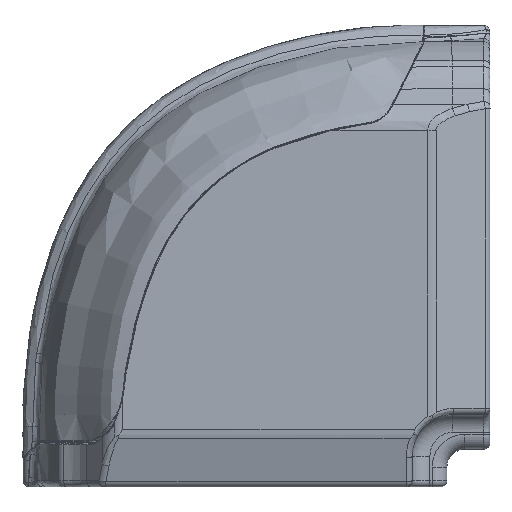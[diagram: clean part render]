
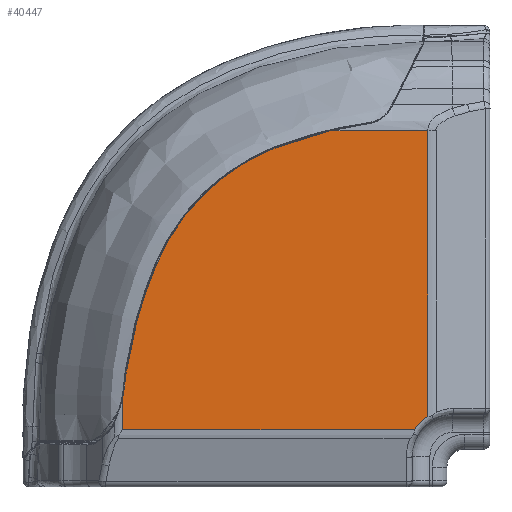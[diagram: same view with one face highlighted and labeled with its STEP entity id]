
A CAD part, top view. The second image highlights one B-rep face of the part: STEP entity #40447.
In plain terms, the highlighted planar face has unit normal (-0.007, -0.003, 1).
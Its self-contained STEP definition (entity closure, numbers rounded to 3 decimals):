
#4066 = ORIENTED_EDGE ( 'NONE', *, *, #162623, .F. ) ;
#5351 = CARTESIAN_POINT ( 'NONE',  ( 404.331, 203.759, -365.558 ) ) ;
#7813 = CARTESIAN_POINT ( 'NONE',  ( 390.149, 195.845, -365.68 ) ) ;
#8263 = EDGE_CURVE ( 'NONE', #43854, #75663, #146233, .T. ) ;
#9820 = DIRECTION ( 'NONE',  ( 0., -1., -0.003 ) ) ;
#9951 = CARTESIAN_POINT ( 'NONE',  ( 368.094, 146.159, -365.991 ) ) ;
#10569 = CARTESIAN_POINT ( 'NONE',  ( 368.015, 145.444, -365.994 ) ) ;
#11473 = CARTESIAN_POINT ( 'NONE',  ( 437.327, 136.468, -365.548 ) ) ;
#20829 = CARTESIAN_POINT ( 'NONE',  ( 402.103, 202.838, -365.576 ) ) ;
#21462 = ORIENTED_EDGE ( 'NONE', *, *, #130354, .F. ) ;
#24052 = CARTESIAN_POINT ( 'NONE',  ( 440.56, 207.815, -365.296 ) ) ;
#24851 = CARTESIAN_POINT ( 'NONE',  ( 368.094, 146.159, -365.991 ) ) ;
#25667 = CARTESIAN_POINT ( 'NONE',  ( 404.331, 203.759, -365.558 ) ) ;
#26079 = DIRECTION ( 'NONE',  ( 1., 0., 0.007 ) ) ;
#36892 = CARTESIAN_POINT ( 'NONE',  ( 368.602, 150.079, -365.975 ) ) ;
#37240 = LINE ( 'NONE', #102559, #154660 ) ;
#37526 = VERTEX_POINT ( 'NONE', #144847 ) ;
#38308 = EDGE_CURVE ( 'NONE', #108038, #121383, #99344, .T. ) ;
#40447 = ADVANCED_FACE ( 'NONE', ( #117916 ), #150733, .T. ) ;
#43132 = ORIENTED_EDGE ( 'NONE', *, *, #139537, .T. ) ;
#43854 = VERTEX_POINT ( 'NONE', #80335 ) ;
#46493 = VERTEX_POINT ( 'NONE', #172559 ) ;
#46782 = DIRECTION ( 'NONE',  ( 1., 0., 0.007 ) ) ;
#47029 = B_SPLINE_CURVE_WITH_KNOTS ( 'NONE', 3,
 ( #95392, #50824, #10569, #9951 ),
 .UNSPECIFIED., .F., .F.,
 ( 4, 4 ),
 ( 0., 1. ),
 .UNSPECIFIED. ) ;
#49262 = CARTESIAN_POINT ( 'NONE',  ( 395.305, 199.599, -365.633 ) ) ;
#49825 = DIRECTION ( 'NONE',  ( 0., 1., 0.003 ) ) ;
#50508 = CARTESIAN_POINT ( 'NONE',  ( 381.529, 186.724, -365.769 ) ) ;
#50824 = CARTESIAN_POINT ( 'NONE',  ( 367.905, 144.732, -365.997 ) ) ;
#51586 = EDGE_CURVE ( 'NONE', #37526, #100925, #66037, .T. ) ;
#52697 = VERTEX_POINT ( 'NONE', #175084 ) ;
#53810 = ORIENTED_EDGE ( 'NONE', *, *, #123099, .F. ) ;
#55355 = ORIENTED_EDGE ( 'NONE', *, *, #98409, .F. ) ;
#57398 = ORIENTED_EDGE ( 'NONE', *, *, #8263, .F. ) ;
#60715 = CARTESIAN_POINT ( 'NONE',  ( 368.239, 147.469, -365.986 ) ) ;
#62010 = LINE ( 'NONE', #24052, #170577 ) ;
#63559 = CARTESIAN_POINT ( 'NONE',  ( 378.113, 181.461, -365.809 ) ) ;
#65930 = CARTESIAN_POINT ( 'NONE',  ( 447.34, 175.978, -365.352 ) ) ;
#66037 = B_SPLINE_CURVE_WITH_KNOTS ( 'NONE', 3,
 ( #82650, #181772, #83247, #11473 ),
 .UNSPECIFIED., .F., .F.,
 ( 4, 4 ),
 ( 0., 1. ),
 .UNSPECIFIED. ) ;
#68344 = VERTEX_POINT ( 'NONE', #151687 ) ;
#68878 = CARTESIAN_POINT ( 'NONE',  ( 368.664, 150.388, -365.974 ) ) ;
#69468 = CARTESIAN_POINT ( 'NONE',  ( 368.635, 150.233, -365.975 ) ) ;
#73110 = CARTESIAN_POINT ( 'NONE',  ( 368.094, 146.159, -365.991 ) ) ;
#73681 = B_SPLINE_CURVE_WITH_KNOTS ( 'NONE', 3,
 ( #153703, #69468, #68878, #83709 ),
 .UNSPECIFIED., .F., .F.,
 ( 4, 4 ),
 ( 0., 1. ),
 .UNSPECIFIED. ) ;
#75663 = VERTEX_POINT ( 'NONE', #146202 ) ;
#80335 = CARTESIAN_POINT ( 'NONE',  ( 368.688, 150.543, -365.973 ) ) ;
#81122 = B_SPLINE_CURVE_WITH_KNOTS ( 'NONE', 3,
 ( #25667, #124764, #126554, #139579 ),
 .UNSPECIFIED., .F., .F.,
 ( 4, 4 ),
 ( 0., 1. ),
 .UNSPECIFIED. ) ;
#82650 = CARTESIAN_POINT ( 'NONE',  ( 440.56, 139.678, -365.515 ) ) ;
#83100 = LINE ( 'NONE', #90122, #134095 ) ;
#83247 = CARTESIAN_POINT ( 'NONE',  ( 438.178, 137.744, -365.538 ) ) ;
#83709 = CARTESIAN_POINT ( 'NONE',  ( 368.688, 150.543, -365.973 ) ) ;
#90122 = CARTESIAN_POINT ( 'NONE',  ( 367.761, 136.47, -366.025 ) ) ;
#94963 = CARTESIAN_POINT ( 'NONE',  ( 437.327, 136.468, -365.548 ) ) ;
#95392 = CARTESIAN_POINT ( 'NONE',  ( 367.761, 144.028, -366.001 ) ) ;
#98409 = EDGE_CURVE ( 'NONE', #68344, #108038, #47029, .T. ) ;
#99344 = B_SPLINE_CURVE_WITH_KNOTS ( 'NONE', 3,
 ( #73110, #60715, #130097, #159183 ),
 .UNSPECIFIED., .F., .F.,
 ( 4, 4 ),
 ( 0., 1. ),
 .UNSPECIFIED. ) ;
#100414 = EDGE_CURVE ( 'NONE', #182853, #46493, #37240, .T. ) ;
#100925 = VERTEX_POINT ( 'NONE', #94963 ) ;
#102273 = ORIENTED_EDGE ( 'NONE', *, *, #51586, .F. ) ;
#102559 = CARTESIAN_POINT ( 'NONE',  ( 417.428, 207.815, -365.455 ) ) ;
#105695 = CARTESIAN_POINT ( 'NONE',  ( 375.724, 175.713, -365.844 ) ) ;
#107829 = CARTESIAN_POINT ( 'NONE',  ( 375.724, 175.713, -365.844 ) ) ;
#108038 = VERTEX_POINT ( 'NONE', #24851 ) ;
#108692 = DIRECTION ( 'NONE',  ( 0., -1., -0.003 ) ) ;
#109778 = CARTESIAN_POINT ( 'NONE',  ( 367.761, 136.47, -366.025 ) ) ;
#109894 = DIRECTION ( 'NONE',  ( -0.007, -0.003, 1. ) ) ;
#110975 = ORIENTED_EDGE ( 'NONE', *, *, #38308, .F. ) ;
#116996 = VECTOR ( 'NONE', #26079, 1000. ) ;
#117916 = FACE_OUTER_BOUND ( 'NONE', #129359, .T. ) ;
#121383 = VERTEX_POINT ( 'NONE', #36892 ) ;
#123099 = EDGE_CURVE ( 'NONE', #128839, #182853, #81122, .T. ) ;
#124764 = CARTESIAN_POINT ( 'NONE',  ( 408.591, 205.431, -365.523 ) ) ;
#125648 = CARTESIAN_POINT ( 'NONE',  ( 404.331, 203.759, -365.558 ) ) ;
#125870 = CARTESIAN_POINT ( 'NONE',  ( 417.428, 207.815, -365.455 ) ) ;
#126461 = ORIENTED_EDGE ( 'NONE', *, *, #154990, .F. ) ;
#126554 = CARTESIAN_POINT ( 'NONE',  ( 412.969, 206.787, -365.489 ) ) ;
#128839 = VERTEX_POINT ( 'NONE', #125648 ) ;
#129359 = EDGE_LOOP ( 'NONE', ( #21462, #43132, #102273, #4066, #159138, #53810, #180117, #57398, #126461, #110975, #55355 ) ) ;
#130097 = CARTESIAN_POINT ( 'NONE',  ( 368.409, 148.776, -365.981 ) ) ;
#130354 = EDGE_CURVE ( 'NONE', #52697, #68344, #83100, .T. ) ;
#134095 = VECTOR ( 'NONE', #49825, 1000. ) ;
#136234 = CARTESIAN_POINT ( 'NONE',  ( 370.005, 159.187, -365.936 ) ) ;
#139537 = EDGE_CURVE ( 'NONE', #52697, #100925, #179093, .T. ) ;
#139579 = CARTESIAN_POINT ( 'NONE',  ( 417.428, 207.815, -365.455 ) ) ;
#144847 = CARTESIAN_POINT ( 'NONE',  ( 440.56, 139.678, -365.515 ) ) ;
#146202 = CARTESIAN_POINT ( 'NONE',  ( 375.724, 175.713, -365.844 ) ) ;
#146233 = B_SPLINE_CURVE_WITH_KNOTS ( 'NONE', 3,
 ( #149881, #136234, #179638, #107829 ),
 .UNSPECIFIED., .F., .F.,
 ( 4, 4 ),
 ( 0., 1. ),
 .UNSPECIFIED. ) ;
#149881 = CARTESIAN_POINT ( 'NONE',  ( 368.688, 150.543, -365.973 ) ) ;
#150733 = PLANE ( 'NONE',  #165780 ) ;
#151687 = CARTESIAN_POINT ( 'NONE',  ( 367.761, 144.028, -366.001 ) ) ;
#153703 = CARTESIAN_POINT ( 'NONE',  ( 368.602, 150.079, -365.975 ) ) ;
#154660 = VECTOR ( 'NONE', #46782, 1000. ) ;
#154990 = EDGE_CURVE ( 'NONE', #121383, #43854, #73681, .T. ) ;
#158704 = EDGE_CURVE ( 'NONE', #75663, #128839, #179290, .T. ) ;
#159138 = ORIENTED_EDGE ( 'NONE', *, *, #100414, .F. ) ;
#159183 = CARTESIAN_POINT ( 'NONE',  ( 368.602, 150.079, -365.975 ) ) ;
#162623 = EDGE_CURVE ( 'NONE', #46493, #37526, #62010, .T. ) ;
#162637 = CARTESIAN_POINT ( 'NONE',  ( 403.209, 203.318, -365.567 ) ) ;
#165780 = AXIS2_PLACEMENT_3D ( 'NONE', #65930, #109894, #108692 ) ;
#170577 = VECTOR ( 'NONE', #9820, 1000. ) ;
#172559 = CARTESIAN_POINT ( 'NONE',  ( 440.56, 207.815, -365.296 ) ) ;
#175084 = CARTESIAN_POINT ( 'NONE',  ( 367.761, 136.47, -366.025 ) ) ;
#179093 = LINE ( 'NONE', #109778, #116996 ) ;
#179290 = B_SPLINE_CURVE_WITH_KNOTS ( 'NONE', 3,
 ( #105695, #63559, #50508, #7813, #49262, #20829, #162637, #5351 ),
 .UNSPECIFIED., .F., .F.,
 ( 4, 2, 2, 4 ),
 ( 0., 0.453, 0.912, 1. ),
 .UNSPECIFIED. ) ;
#179638 = CARTESIAN_POINT ( 'NONE',  ( 372.367, 167.639, -365.893 ) ) ;
#180117 = ORIENTED_EDGE ( 'NONE', *, *, #158704, .F. ) ;
#181772 = CARTESIAN_POINT ( 'NONE',  ( 439.277, 138.836, -365.527 ) ) ;
#182853 = VERTEX_POINT ( 'NONE', #125870 ) ;
